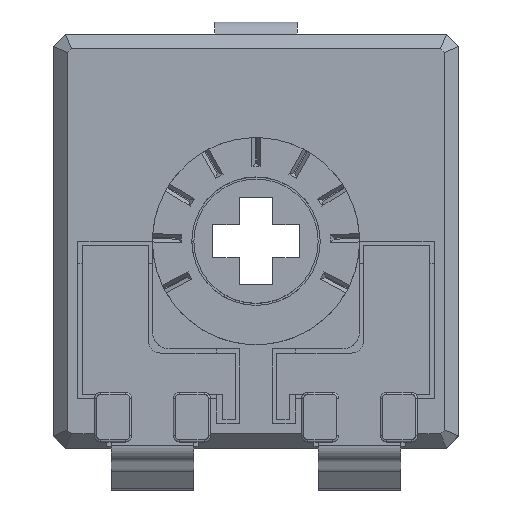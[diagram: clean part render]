
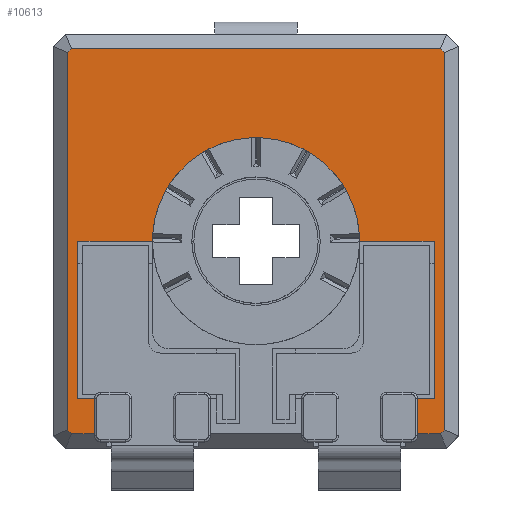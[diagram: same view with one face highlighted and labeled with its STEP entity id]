
A CAD part, top view. The second image highlights one B-rep face of the part: STEP entity #10613.
In plain terms, the highlighted planar face has unit normal (0, 0, 1).
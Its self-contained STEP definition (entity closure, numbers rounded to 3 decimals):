
#326=CIRCLE('',#11330,2.5);
#632=FACE_OUTER_BOUND('',#1180,.T.);
#1180=EDGE_LOOP('',(#7692,#7693,#7694,#7695,#7696,#7697,#7698,#7699,#7700,
#7701,#7702,#7703,#7704,#7705,#7706,#7707,#7708,#7709));
#1916=LINE('',#15671,#3177);
#1969=LINE('',#15887,#3230);
#2024=LINE('',#16007,#3285);
#2046=LINE('',#16051,#3307);
#2047=LINE('',#16053,#3308);
#2048=LINE('',#16055,#3309);
#2049=LINE('',#16057,#3310);
#2050=LINE('',#16059,#3311);
#2051=LINE('',#16061,#3312);
#2052=LINE('',#16063,#3313);
#2053=LINE('',#16065,#3314);
#2054=LINE('',#16066,#3315);
#2055=LINE('',#16068,#3316);
#2056=LINE('',#16070,#3317);
#2057=LINE('',#16072,#3318);
#2058=LINE('',#16076,#3319);
#2059=LINE('',#16077,#3320);
#3177=VECTOR('',#12605,10.);
#3230=VECTOR('',#12852,10.);
#3285=VECTOR('',#12967,10.);
#3307=VECTOR('',#13003,10.);
#3308=VECTOR('',#13004,10.);
#3309=VECTOR('',#13005,10.);
#3310=VECTOR('',#13006,10.);
#3311=VECTOR('',#13007,10.);
#3312=VECTOR('',#13008,10.);
#3313=VECTOR('',#13009,10.);
#3314=VECTOR('',#13010,10.);
#3315=VECTOR('',#13011,10.);
#3316=VECTOR('',#13012,10.);
#3317=VECTOR('',#13013,10.);
#3318=VECTOR('',#13014,10.);
#3319=VECTOR('',#13017,10.);
#3320=VECTOR('',#13018,10.);
#4418=VERTEX_POINT('',#15668);
#4419=VERTEX_POINT('',#15670);
#4484=VERTEX_POINT('',#15884);
#4485=VERTEX_POINT('',#15886);
#4520=VERTEX_POINT('',#16006);
#4535=VERTEX_POINT('',#16050);
#4536=VERTEX_POINT('',#16052);
#4537=VERTEX_POINT('',#16054);
#4538=VERTEX_POINT('',#16056);
#4539=VERTEX_POINT('',#16058);
#4540=VERTEX_POINT('',#16060);
#4541=VERTEX_POINT('',#16062);
#4542=VERTEX_POINT('',#16064);
#4543=VERTEX_POINT('',#16067);
#4544=VERTEX_POINT('',#16069);
#4545=VERTEX_POINT('',#16071);
#4546=VERTEX_POINT('',#16073);
#4547=VERTEX_POINT('',#16075);
#5528=EDGE_CURVE('',#4419,#4418,#1916,.T.);
#5636=EDGE_CURVE('',#4485,#4484,#1969,.T.);
#5698=EDGE_CURVE('',#4520,#4419,#2024,.T.);
#5721=EDGE_CURVE('',#4535,#4418,#2046,.T.);
#5722=EDGE_CURVE('',#4536,#4535,#2047,.T.);
#5723=EDGE_CURVE('',#4537,#4536,#2048,.T.);
#5724=EDGE_CURVE('',#4538,#4537,#2049,.T.);
#5725=EDGE_CURVE('',#4539,#4538,#2050,.T.);
#5726=EDGE_CURVE('',#4540,#4539,#2051,.T.);
#5727=EDGE_CURVE('',#4541,#4540,#2052,.T.);
#5728=EDGE_CURVE('',#4542,#4541,#2053,.T.);
#5729=EDGE_CURVE('',#4485,#4542,#2054,.T.);
#5730=EDGE_CURVE('',#4484,#4543,#2055,.T.);
#5731=EDGE_CURVE('',#4543,#4544,#2056,.T.);
#5732=EDGE_CURVE('',#4544,#4545,#2057,.T.);
#5733=EDGE_CURVE('',#4545,#4546,#326,.T.);
#5734=EDGE_CURVE('',#4546,#4547,#2058,.T.);
#5735=EDGE_CURVE('',#4547,#4520,#2059,.T.);
#7692=ORIENTED_EDGE('',*,*,#5528,.T.);
#7693=ORIENTED_EDGE('',*,*,#5721,.F.);
#7694=ORIENTED_EDGE('',*,*,#5722,.F.);
#7695=ORIENTED_EDGE('',*,*,#5723,.F.);
#7696=ORIENTED_EDGE('',*,*,#5724,.F.);
#7697=ORIENTED_EDGE('',*,*,#5725,.F.);
#7698=ORIENTED_EDGE('',*,*,#5726,.F.);
#7699=ORIENTED_EDGE('',*,*,#5727,.F.);
#7700=ORIENTED_EDGE('',*,*,#5728,.F.);
#7701=ORIENTED_EDGE('',*,*,#5729,.F.);
#7702=ORIENTED_EDGE('',*,*,#5636,.T.);
#7703=ORIENTED_EDGE('',*,*,#5730,.T.);
#7704=ORIENTED_EDGE('',*,*,#5731,.T.);
#7705=ORIENTED_EDGE('',*,*,#5732,.T.);
#7706=ORIENTED_EDGE('',*,*,#5733,.T.);
#7707=ORIENTED_EDGE('',*,*,#5734,.T.);
#7708=ORIENTED_EDGE('',*,*,#5735,.T.);
#7709=ORIENTED_EDGE('',*,*,#5698,.T.);
#9878=PLANE('',#11329);
#10613=ADVANCED_FACE('',(#632),#9878,.T.);
#11329=AXIS2_PLACEMENT_3D('',#16049,#13001,#13002);
#11330=AXIS2_PLACEMENT_3D('',#16074,#13015,#13016);
#12605=DIRECTION('',(0.,-1.,0.));
#12852=DIRECTION('',(0.,1.,0.));
#12967=DIRECTION('',(-1.,0.,0.));
#13001=DIRECTION('center_axis',(0.,0.,1.));
#13002=DIRECTION('ref_axis',(1.,0.,0.));
#13003=DIRECTION('',(-1.,0.,0.));
#13004=DIRECTION('',(-0.707,-0.707,0.));
#13005=DIRECTION('',(0.,-1.,0.));
#13006=DIRECTION('',(0.707,-0.707,0.));
#13007=DIRECTION('',(1.,0.,0.));
#13008=DIRECTION('',(0.707,0.707,0.));
#13009=DIRECTION('',(0.,1.,0.));
#13010=DIRECTION('',(-0.707,0.707,0.));
#13011=DIRECTION('',(-1.,0.,0.));
#13012=DIRECTION('',(-1.,0.,0.));
#13013=DIRECTION('',(0.,1.,0.));
#13014=DIRECTION('',(1.,0.,0.));
#13015=DIRECTION('center_axis',(0.,0.,-1.));
#13016=DIRECTION('ref_axis',(-1.,0.,0.));
#13017=DIRECTION('',(1.,0.,0.));
#13018=DIRECTION('',(0.,-1.,0.));
#15668=CARTESIAN_POINT('',(-22.548,-17.64,0.));
#15670=CARTESIAN_POINT('',(-22.548,-16.79,0.));
#15671=CARTESIAN_POINT('',(-22.548,-15.415,0.));
#15884=CARTESIAN_POINT('',(-30.348,-16.79,0.));
#15886=CARTESIAN_POINT('',(-30.348,-17.64,0.));
#15887=CARTESIAN_POINT('',(-30.348,-14.815,0.));
#16006=CARTESIAN_POINT('',(-22.148,-16.79,0.));
#16007=CARTESIAN_POINT('',(-24.648,-16.79,0.));
#16049=CARTESIAN_POINT('Origin',(-26.448,-12.99,0.));
#16050=CARTESIAN_POINT('',(-21.993,-17.64,0.));
#16051=CARTESIAN_POINT('',(-28.748,-17.64,0.));
#16052=CARTESIAN_POINT('',(-21.898,-17.545,0.));
#16053=CARTESIAN_POINT('',(-21.995,-17.643,0.));
#16054=CARTESIAN_POINT('',(-21.898,-8.435,0.));
#16055=CARTESIAN_POINT('',(-21.898,-15.34,0.));
#16056=CARTESIAN_POINT('',(-21.993,-8.34,0.));
#16057=CARTESIAN_POINT('',(-21.845,-8.488,0.));
#16058=CARTESIAN_POINT('',(-30.903,-8.34,0.));
#16059=CARTESIAN_POINT('',(-24.148,-8.34,0.));
#16060=CARTESIAN_POINT('',(-30.998,-8.435,0.));
#16061=CARTESIAN_POINT('',(-30.9,-8.338,0.));
#16062=CARTESIAN_POINT('',(-30.998,-17.545,0.));
#16063=CARTESIAN_POINT('',(-30.998,-10.64,0.));
#16064=CARTESIAN_POINT('',(-30.903,-17.64,0.));
#16065=CARTESIAN_POINT('',(-31.05,-17.493,0.));
#16066=CARTESIAN_POINT('',(-28.748,-17.64,0.));
#16067=CARTESIAN_POINT('',(-30.748,-16.79,0.));
#16068=CARTESIAN_POINT('',(-28.598,-16.79,0.));
#16069=CARTESIAN_POINT('',(-30.748,-12.99,0.));
#16070=CARTESIAN_POINT('',(-30.748,-12.99,0.));
#16071=CARTESIAN_POINT('',(-28.948,-12.99,0.));
#16072=CARTESIAN_POINT('',(-27.698,-12.99,0.));
#16073=CARTESIAN_POINT('',(-23.948,-12.99,0.));
#16074=CARTESIAN_POINT('Origin',(-26.448,-12.99,0.));
#16075=CARTESIAN_POINT('',(-22.148,-12.99,0.));
#16076=CARTESIAN_POINT('',(-24.298,-12.99,0.));
#16077=CARTESIAN_POINT('',(-22.148,-14.89,0.));
